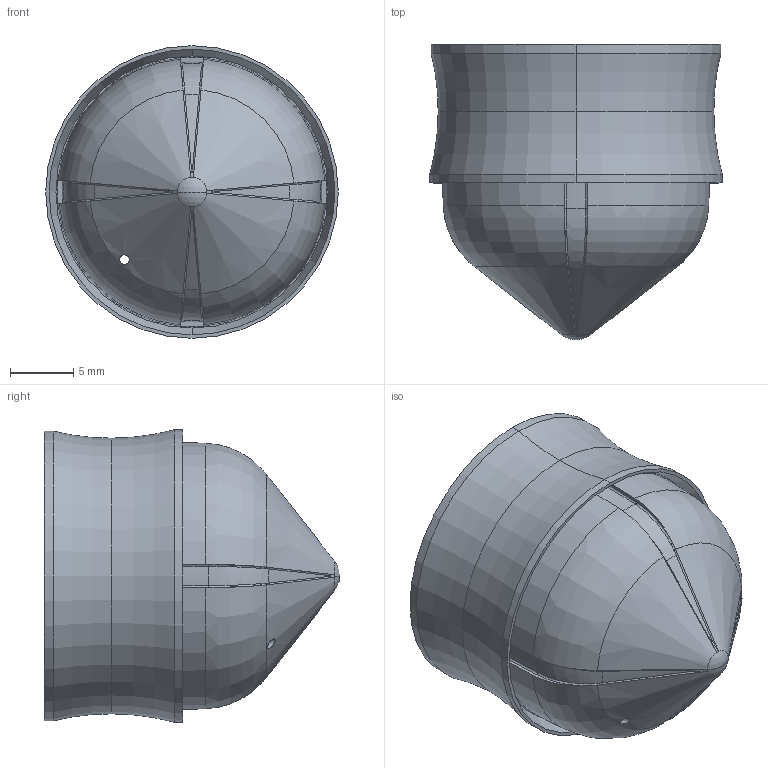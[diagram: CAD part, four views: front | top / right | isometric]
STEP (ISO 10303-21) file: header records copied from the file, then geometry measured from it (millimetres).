
FILE_DESCRIPTION (( 'STEP AP214' ), '1' );
FILE_NAME ('NORDSONEFD-7014427 PISTON O 30-55CC BL BARRIER.STEP', '2019-01-02T13:20:30', ( '' ), ( '' ), 'SwSTEP 2.0', 'SolidWorks 2018', '' );
FILE_SCHEMA (( 'AUTOMOTIVE_DESIGN' ));
Length unit declared in the file: inch
Products named in the file (1): NORDSONEFD-7014427 PISTON O 30-55CC BL BARRIER
Bounding box: 23.06 x 23.29 x 23.06 mm (x, y, z)
Volume: 1466.3 mm3; surface area: 3546.4 mm2
Topology: 1 solids, 1 shells, 301 faces, 786 edges, 502 vertices
Faces by surface type: bspline 111, plane 85, torus 36, cone 35, cylinder 30, sphere 4
Entity records: 15779 total; most frequent: CARTESIAN_POINT 7496, ORIENTED_EDGE 1572, DIRECTION 1064, EDGE_CURVE 786, VERTEX_POINT 502, AXIS2_PLACEMENT_3D 418, B_SPLINE_CURVE_WITH_KNOTS 331, EDGE_LOOP 318
